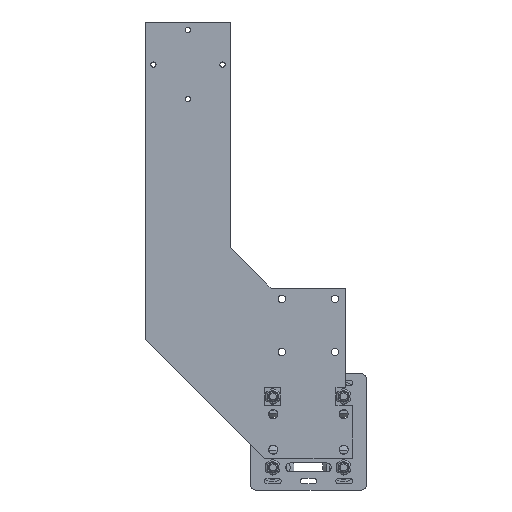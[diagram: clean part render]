
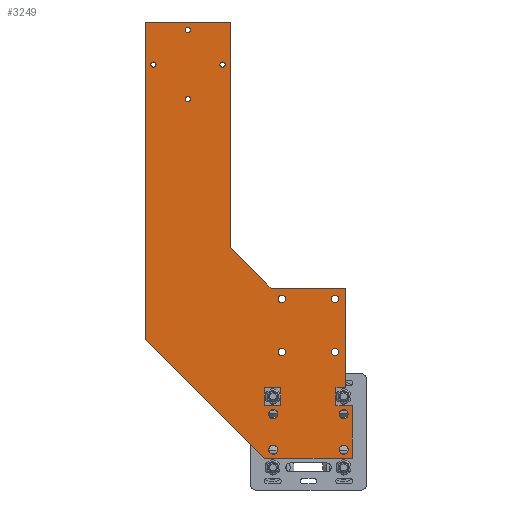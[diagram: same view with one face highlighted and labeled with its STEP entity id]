
A CAD part, left-side view. The second image highlights one B-rep face of the part: STEP entity #3249.
In plain terms, the highlighted planar face has unit normal (-1, 0, 0).
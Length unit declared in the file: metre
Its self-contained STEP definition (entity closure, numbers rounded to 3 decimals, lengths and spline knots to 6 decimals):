
#372=CIRCLE('',#3739,0.0021);
#374=CIRCLE('',#3742,0.0021);
#376=CIRCLE('',#3745,0.0021);
#378=CIRCLE('',#3748,0.00255);
#380=CIRCLE('',#3751,0.00255);
#382=CIRCLE('',#3754,0.00255);
#384=CIRCLE('',#3757,0.00255);
#386=CIRCLE('',#3762,0.0021);
#388=CIRCLE('',#3765,0.0015);
#389=CIRCLE('',#3766,0.0015);
#390=CIRCLE('',#3767,0.0015);
#391=CIRCLE('',#3768,0.0015);
#1180=ORIENTED_EDGE('',*,*,#1646,.T.);
#1181=ORIENTED_EDGE('',*,*,#1604,.F.);
#1182=ORIENTED_EDGE('',*,*,#1601,.T.);
#1183=ORIENTED_EDGE('',*,*,#1643,.T.);
#1184=ORIENTED_EDGE('',*,*,#1624,.F.);
#1185=ORIENTED_EDGE('',*,*,#1621,.T.);
#1186=ORIENTED_EDGE('',*,*,#1618,.T.);
#1187=ORIENTED_EDGE('',*,*,#1615,.T.);
#1188=ORIENTED_EDGE('',*,*,#1611,.T.);
#1189=ORIENTED_EDGE('',*,*,#1647,.T.);
#1190=ORIENTED_EDGE('',*,*,#1648,.F.);
#1191=ORIENTED_EDGE('',*,*,#1649,.T.);
#1192=ORIENTED_EDGE('',*,*,#1591,.F.);
#1193=ORIENTED_EDGE('',*,*,#1641,.T.);
#1194=ORIENTED_EDGE('',*,*,#1597,.T.);
#1195=ORIENTED_EDGE('',*,*,#1594,.T.);
#1196=ORIENTED_EDGE('',*,*,#1638,.T.);
#1197=ORIENTED_EDGE('',*,*,#1636,.T.);
#1198=ORIENTED_EDGE('',*,*,#1634,.T.);
#1199=ORIENTED_EDGE('',*,*,#1632,.T.);
#1200=ORIENTED_EDGE('',*,*,#1630,.T.);
#1201=ORIENTED_EDGE('',*,*,#1628,.T.);
#1202=ORIENTED_EDGE('',*,*,#1626,.T.);
#1203=ORIENTED_EDGE('',*,*,#1644,.T.);
#1204=ORIENTED_EDGE('',*,*,#1650,.T.);
#1205=ORIENTED_EDGE('',*,*,#1651,.T.);
#1206=ORIENTED_EDGE('',*,*,#1652,.T.);
#1207=ORIENTED_EDGE('',*,*,#1653,.T.);
#1591=EDGE_CURVE('',#1905,#1906,#2083,.T.);
#1594=EDGE_CURVE('',#1908,#1906,#2086,.T.);
#1597=EDGE_CURVE('',#1910,#1908,#2089,.T.);
#1601=EDGE_CURVE('',#1914,#1913,#2093,.T.);
#1604=EDGE_CURVE('',#1914,#1916,#2096,.T.);
#1611=EDGE_CURVE('',#1919,#1922,#2103,.T.);
#1615=EDGE_CURVE('',#1926,#1919,#2107,.T.);
#1618=EDGE_CURVE('',#1928,#1926,#2110,.T.);
#1621=EDGE_CURVE('',#1930,#1928,#2113,.T.);
#1624=EDGE_CURVE('',#1930,#1932,#2116,.T.);
#1626=EDGE_CURVE('',#1933,#1933,#372,.T.);
#1628=EDGE_CURVE('',#1935,#1935,#374,.T.);
#1630=EDGE_CURVE('',#1937,#1937,#376,.T.);
#1632=EDGE_CURVE('',#1939,#1939,#378,.T.);
#1634=EDGE_CURVE('',#1941,#1941,#380,.T.);
#1636=EDGE_CURVE('',#1943,#1943,#382,.T.);
#1638=EDGE_CURVE('',#1945,#1945,#384,.T.);
#1641=EDGE_CURVE('',#1905,#1910,#2119,.T.);
#1643=EDGE_CURVE('',#1913,#1932,#2121,.T.);
#1644=EDGE_CURVE('',#1947,#1947,#386,.T.);
#1646=EDGE_CURVE('',#1949,#1916,#2122,.T.);
#1647=EDGE_CURVE('',#1922,#1950,#2123,.T.);
#1648=EDGE_CURVE('',#1951,#1950,#2124,.T.);
#1649=EDGE_CURVE('',#1951,#1949,#2125,.T.);
#1650=EDGE_CURVE('',#1952,#1952,#388,.T.);
#1651=EDGE_CURVE('',#1953,#1953,#389,.T.);
#1652=EDGE_CURVE('',#1954,#1954,#390,.T.);
#1653=EDGE_CURVE('',#1955,#1955,#391,.T.);
#1905=VERTEX_POINT('',#5581);
#1906=VERTEX_POINT('',#5583);
#1908=VERTEX_POINT('',#5589);
#1910=VERTEX_POINT('',#5595);
#1913=VERTEX_POINT('',#5602);
#1914=VERTEX_POINT('',#5604);
#1916=VERTEX_POINT('',#5610);
#1919=VERTEX_POINT('',#5618);
#1922=VERTEX_POINT('',#5623);
#1926=VERTEX_POINT('',#5633);
#1928=VERTEX_POINT('',#5639);
#1930=VERTEX_POINT('',#5645);
#1932=VERTEX_POINT('',#5651);
#1933=VERTEX_POINT('',#5655);
#1935=VERTEX_POINT('',#5660);
#1937=VERTEX_POINT('',#5665);
#1939=VERTEX_POINT('',#5670);
#1941=VERTEX_POINT('',#5675);
#1943=VERTEX_POINT('',#5680);
#1945=VERTEX_POINT('',#5685);
#1947=VERTEX_POINT('',#5696);
#1949=VERTEX_POINT('',#5701);
#1950=VERTEX_POINT('',#5703);
#1951=VERTEX_POINT('',#5705);
#1952=VERTEX_POINT('',#5708);
#1953=VERTEX_POINT('',#5710);
#1954=VERTEX_POINT('',#5712);
#1955=VERTEX_POINT('',#5714);
#2083=LINE('',#5582,#2256);
#2086=LINE('',#5588,#2259);
#2089=LINE('',#5594,#2262);
#2093=LINE('',#5603,#2266);
#2096=LINE('',#5609,#2269);
#2103=LINE('',#5624,#2276);
#2107=LINE('',#5632,#2280);
#2110=LINE('',#5638,#2283);
#2113=LINE('',#5644,#2286);
#2116=LINE('',#5650,#2289);
#2119=LINE('',#5690,#2292);
#2121=LINE('',#5693,#2294);
#2122=LINE('',#5700,#2295);
#2123=LINE('',#5702,#2296);
#2124=LINE('',#5704,#2297);
#2125=LINE('',#5706,#2298);
#2256=VECTOR('',#4566,1.);
#2259=VECTOR('',#4571,1.);
#2262=VECTOR('',#4576,1.);
#2266=VECTOR('',#4582,1.);
#2269=VECTOR('',#4587,1.);
#2276=VECTOR('',#4596,1.);
#2280=VECTOR('',#4602,1.);
#2283=VECTOR('',#4607,1.);
#2286=VECTOR('',#4612,1.);
#2289=VECTOR('',#4617,1.);
#2292=VECTOR('',#4664,1.);
#2294=VECTOR('',#4668,1.);
#2295=VECTOR('',#4677,1.);
#2296=VECTOR('',#4678,1.);
#2297=VECTOR('',#4679,1.);
#2298=VECTOR('',#4680,1.);
#2607=EDGE_LOOP('',(#1180,#1181,#1182,#1183,#1184,#1185,#1186,#1187,#1188,
#1189,#1190,#1191));
#2608=EDGE_LOOP('',(#1192,#1193,#1194,#1195));
#2609=EDGE_LOOP('',(#1196));
#2610=EDGE_LOOP('',(#1197));
#2611=EDGE_LOOP('',(#1198));
#2612=EDGE_LOOP('',(#1199));
#2613=EDGE_LOOP('',(#1200));
#2614=EDGE_LOOP('',(#1201));
#2615=EDGE_LOOP('',(#1202));
#2616=EDGE_LOOP('',(#1203));
#2617=EDGE_LOOP('',(#1204));
#2618=EDGE_LOOP('',(#1205));
#2619=EDGE_LOOP('',(#1206));
#2620=EDGE_LOOP('',(#1207));
#2946=FACE_BOUND('',#2607,.T.);
#2947=FACE_BOUND('',#2608,.T.);
#2948=FACE_BOUND('',#2609,.T.);
#2949=FACE_BOUND('',#2610,.T.);
#2950=FACE_BOUND('',#2611,.T.);
#2951=FACE_BOUND('',#2612,.T.);
#2952=FACE_BOUND('',#2613,.T.);
#2953=FACE_BOUND('',#2614,.T.);
#2954=FACE_BOUND('',#2615,.T.);
#2955=FACE_BOUND('',#2616,.T.);
#2956=FACE_BOUND('',#2617,.T.);
#2957=FACE_BOUND('',#2618,.T.);
#2958=FACE_BOUND('',#2619,.T.);
#2959=FACE_BOUND('',#2620,.T.);
#3066=PLANE('',#3764);
#3249=ADVANCED_FACE('',(#2946,#2947,#2948,#2949,#2950,#2951,#2952,#2953,
#2954,#2955,#2956,#2957,#2958,#2959),#3066,.F.);
#3739=AXIS2_PLACEMENT_3D('',#5654,#4621,#4622);
#3742=AXIS2_PLACEMENT_3D('',#5659,#4627,#4628);
#3745=AXIS2_PLACEMENT_3D('',#5664,#4633,#4634);
#3748=AXIS2_PLACEMENT_3D('',#5669,#4639,#4640);
#3751=AXIS2_PLACEMENT_3D('',#5674,#4645,#4646);
#3754=AXIS2_PLACEMENT_3D('',#5679,#4651,#4652);
#3757=AXIS2_PLACEMENT_3D('',#5684,#4657,#4658);
#3762=AXIS2_PLACEMENT_3D('',#5695,#4671,#4672);
#3764=AXIS2_PLACEMENT_3D('',#5699,#4675,#4676);
#3765=AXIS2_PLACEMENT_3D('',#5707,#4681,#4682);
#3766=AXIS2_PLACEMENT_3D('',#5709,#4683,#4684);
#3767=AXIS2_PLACEMENT_3D('',#5711,#4685,#4686);
#3768=AXIS2_PLACEMENT_3D('',#5713,#4687,#4688);
#4566=DIRECTION('',(0.,-1.,0.));
#4571=DIRECTION('',(0.,0.,-1.));
#4576=DIRECTION('',(0.,-1.,0.));
#4582=DIRECTION('',(0.,-1.,0.));
#4587=DIRECTION('',(0.,0.707,0.707));
#4596=DIRECTION('',(0.,1.,0.));
#4602=DIRECTION('',(0.,0.,1.));
#4607=DIRECTION('',(0.,-1.,0.));
#4612=DIRECTION('',(0.,0.,1.));
#4617=DIRECTION('',(0.,-1.,0.));
#4621=DIRECTION('',(1.,0.,0.));
#4622=DIRECTION('',(0.,0.,-1.));
#4627=DIRECTION('',(1.,0.,0.));
#4628=DIRECTION('',(0.,0.,-1.));
#4633=DIRECTION('',(1.,0.,0.));
#4634=DIRECTION('',(0.,0.,-1.));
#4639=DIRECTION('',(1.,0.,0.));
#4640=DIRECTION('',(0.,0.,-1.));
#4645=DIRECTION('',(1.,0.,0.));
#4646=DIRECTION('',(0.,0.,-1.));
#4651=DIRECTION('',(1.,0.,0.));
#4652=DIRECTION('',(0.,0.,-1.));
#4657=DIRECTION('',(1.,0.,0.));
#4658=DIRECTION('',(0.,0.,-1.));
#4664=DIRECTION('',(0.,0.,1.));
#4668=DIRECTION('',(0.,0.,1.));
#4671=DIRECTION('',(1.,0.,0.));
#4672=DIRECTION('',(0.,0.,-1.));
#4675=DIRECTION('',(1.,0.,0.));
#4676=DIRECTION('',(0.,1.,0.));
#4677=DIRECTION('',(0.,0.,-1.));
#4678=DIRECTION('',(0.,0.707,0.707));
#4679=DIRECTION('',(0.,0.,-1.));
#4680=DIRECTION('',(0.,1.,0.));
#4681=DIRECTION('',(1.,0.,0.));
#4682=DIRECTION('',(0.,0.,-1.));
#4683=DIRECTION('',(1.,0.,0.));
#4684=DIRECTION('',(0.,0.,-1.));
#4685=DIRECTION('',(1.,0.,0.));
#4686=DIRECTION('',(0.,0.,-1.));
#4687=DIRECTION('',(1.,0.,0.));
#4688=DIRECTION('',(0.,0.,-1.));
#5581=CARTESIAN_POINT('',(-0.004,0.0248,0.01485));
#5582=CARTESIAN_POINT('',(-0.004,0.02015,0.01485));
#5583=CARTESIAN_POINT('',(-0.004,0.0155,0.01485));
#5588=CARTESIAN_POINT('',(-0.004,0.0155,0.0199));
#5589=CARTESIAN_POINT('',(-0.004,0.0155,0.02495));
#5594=CARTESIAN_POINT('',(-0.004,0.0183,0.02495));
#5595=CARTESIAN_POINT('',(-0.004,0.0248,0.02495));
#5602=CARTESIAN_POINT('',(-0.004,-0.0248,-0.01485));
#5603=CARTESIAN_POINT('',(-0.004,0.,-0.01485));
#5604=CARTESIAN_POINT('',(-0.004,0.0248,-0.01485));
#5609=CARTESIAN_POINT('',(-0.004,0.0288,-0.01085));
#5610=CARTESIAN_POINT('',(-0.004,0.09192,0.05227));
#5618=CARTESIAN_POINT('',(-0.004,-0.0211,0.08113));
#5623=CARTESIAN_POINT('',(-0.004,0.0211,0.08113));
#5624=CARTESIAN_POINT('',(-0.004,0.,0.08113));
#5632=CARTESIAN_POINT('',(-0.004,-0.0211,0.05704));
#5633=CARTESIAN_POINT('',(-0.004,-0.0211,0.02495));
#5638=CARTESIAN_POINT('',(-0.004,-0.0183,0.02495));
#5639=CARTESIAN_POINT('',(-0.004,-0.0155,0.02495));
#5644=CARTESIAN_POINT('',(-0.004,-0.0155,0.0199));
#5645=CARTESIAN_POINT('',(-0.004,-0.0155,0.01485));
#5650=CARTESIAN_POINT('',(-0.004,-0.02015,0.01485));
#5651=CARTESIAN_POINT('',(-0.004,-0.0248,0.01485));
#5654=CARTESIAN_POINT('',(-0.004,0.015,0.04503));
#5655=CARTESIAN_POINT('',(-0.004,0.015,0.04293));
#5659=CARTESIAN_POINT('',(-0.004,-0.015,0.07503));
#5660=CARTESIAN_POINT('',(-0.004,-0.015,0.07293));
#5664=CARTESIAN_POINT('',(-0.004,0.015,0.07503));
#5665=CARTESIAN_POINT('',(-0.004,0.015,0.07293));
#5669=CARTESIAN_POINT('',(-0.004,0.01985,-0.01));
#5670=CARTESIAN_POINT('',(-0.004,0.01985,-0.01255));
#5674=CARTESIAN_POINT('',(-0.004,0.01985,0.01));
#5675=CARTESIAN_POINT('',(-0.004,0.01985,0.00745));
#5679=CARTESIAN_POINT('',(-0.004,-0.01985,0.01));
#5680=CARTESIAN_POINT('',(-0.004,-0.01985,0.00745));
#5684=CARTESIAN_POINT('',(-0.004,-0.01985,-0.01));
#5685=CARTESIAN_POINT('',(-0.004,-0.01985,-0.01255));
#5690=CARTESIAN_POINT('',(-0.004,0.0248,0.0199));
#5693=CARTESIAN_POINT('',(-0.004,-0.0248,0.));
#5695=CARTESIAN_POINT('',(-0.004,-0.015,0.04503));
#5696=CARTESIAN_POINT('',(-0.004,-0.015,0.04293));
#5699=CARTESIAN_POINT('',(-0.004,0.03356,0.108146));
#5700=CARTESIAN_POINT('',(-0.004,0.09192,0.141706));
#5701=CARTESIAN_POINT('',(-0.004,0.09192,0.231143));
#5702=CARTESIAN_POINT('',(-0.004,0.03253,0.09256));
#5703=CARTESIAN_POINT('',(-0.004,0.04396,0.10399));
#5704=CARTESIAN_POINT('',(-0.004,0.04396,0.167566));
#5705=CARTESIAN_POINT('',(-0.004,0.04396,0.231143));
#5706=CARTESIAN_POINT('',(-0.004,0.07993,0.231143));
#5707=CARTESIAN_POINT('',(-0.004,0.06794,0.226643));
#5708=CARTESIAN_POINT('',(-0.004,0.06794,0.225143));
#5709=CARTESIAN_POINT('',(-0.004,0.06794,0.187643));
#5710=CARTESIAN_POINT('',(-0.004,0.06794,0.186143));
#5711=CARTESIAN_POINT('',(-0.004,0.08744,0.207098));
#5712=CARTESIAN_POINT('',(-0.004,0.08744,0.205598));
#5713=CARTESIAN_POINT('',(-0.004,0.04844,0.207098));
#5714=CARTESIAN_POINT('',(-0.004,0.04844,0.205598));
